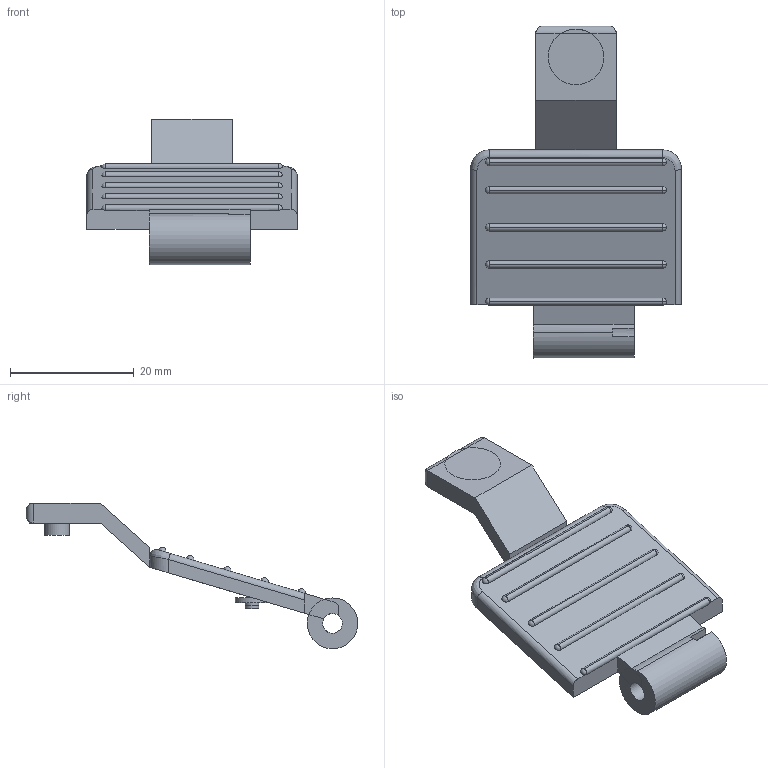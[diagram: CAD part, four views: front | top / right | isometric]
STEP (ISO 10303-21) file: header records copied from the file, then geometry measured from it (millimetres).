
FILE_DESCRIPTION(('FreeCAD Model'),'2;1');
FILE_NAME('Open CASCADE Shape Model','2026-10-18T19:16:06',('FreeCAD'),( 'FreeCAD'),'Open CASCADE STEP processor 7.9','FreeCAD','Unknown');
FILE_SCHEMA(('AUTOMOTIVE_DESIGN { 1 0 10303 214 1 1 1 1 }'));
Length unit declared in the file: millimetre
Products named in the file (1): Open CASCADE STEP translator 7.9 2
Bounding box: 34 x 53.6 x 23.5 mm (x, y, z)
Volume: 4381.5 mm3; surface area: 3651.8 mm2
Topology: 1 solids, 1 shells, 87 faces, 218 edges, 125 vertices
Faces by surface type: plane 40, cylinder 30, sphere 15, bspline 2
Full cylindrical faces by diameter (mm): 2.2 x2, 3.2 x1, 4 x1
Entity records: 2705 total; most frequent: CARTESIAN_POINT 656, DIRECTION 459, ORIENTED_EDGE 406, EDGE_CURVE 203, AXIS2_PLACEMENT_3D 178, VERTEX_POINT 125, LINE 103, VECTOR 103
